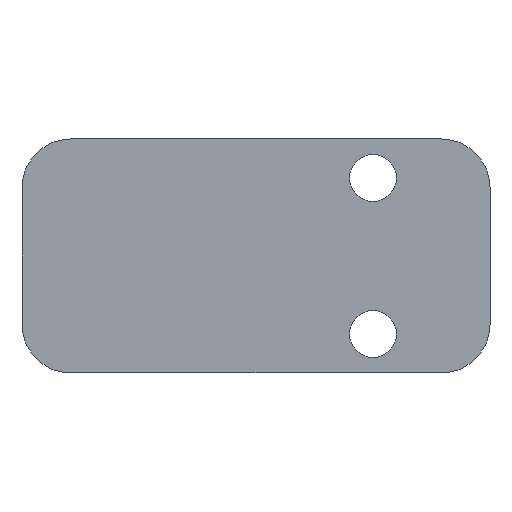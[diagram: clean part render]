
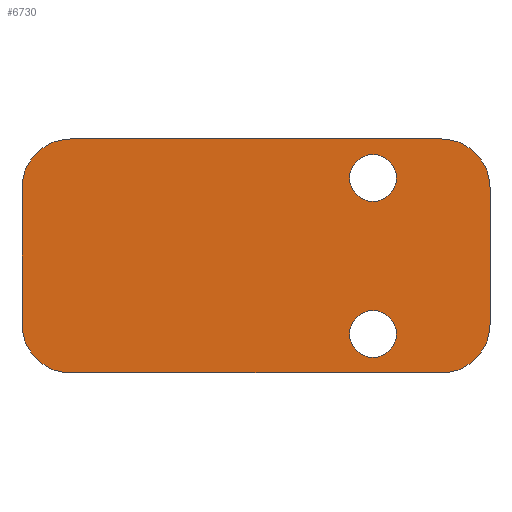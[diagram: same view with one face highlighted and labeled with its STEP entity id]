
A CAD part, front view. The second image highlights one B-rep face of the part: STEP entity #6730.
In plain terms, the highlighted planar face has unit normal (0, -1, 0).
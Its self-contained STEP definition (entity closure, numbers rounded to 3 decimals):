
#397=CIRCLE('',#7361,5.);
#398=CIRCLE('',#7364,5.);
#399=CIRCLE('',#7366,5.);
#400=CIRCLE('',#7367,5.);
#401=CIRCLE('',#7368,2.4);
#402=CIRCLE('',#7369,2.4);
#418=FACE_BOUND('',#1473,.T.);
#419=FACE_BOUND('',#1474,.T.);
#705=PLANE('',#7365);
#1082=FACE_OUTER_BOUND('',#1472,.T.);
#1472=EDGE_LOOP('',(#6026,#6027,#6028,#6029,#6030,#6031,#6032,#6033));
#1473=EDGE_LOOP('',(#6034));
#1474=EDGE_LOOP('',(#6035));
#2167=LINE('',#11468,#2806);
#2169=LINE('',#11475,#2808);
#2170=LINE('',#11479,#2809);
#2171=LINE('',#11482,#2810);
#2806=VECTOR('',#9203,10.);
#2808=VECTOR('',#9211,10.);
#2809=VECTOR('',#9214,10.);
#2810=VECTOR('',#9217,10.);
#3483=VERTEX_POINT('',#11460);
#3484=VERTEX_POINT('',#11462);
#3485=VERTEX_POINT('',#11466);
#3486=VERTEX_POINT('',#11470);
#3487=VERTEX_POINT('',#11474);
#3488=VERTEX_POINT('',#11476);
#3489=VERTEX_POINT('',#11478);
#3490=VERTEX_POINT('',#11480);
#3491=VERTEX_POINT('',#11483);
#3492=VERTEX_POINT('',#11485);
#4415=EDGE_CURVE('',#3483,#3484,#397,.T.);
#4418=EDGE_CURVE('',#3485,#3483,#2167,.T.);
#4420=EDGE_CURVE('',#3486,#3485,#398,.T.);
#4421=EDGE_CURVE('',#3487,#3486,#2169,.T.);
#4422=EDGE_CURVE('',#3488,#3487,#399,.T.);
#4423=EDGE_CURVE('',#3489,#3488,#2170,.T.);
#4424=EDGE_CURVE('',#3490,#3489,#400,.T.);
#4425=EDGE_CURVE('',#3484,#3490,#2171,.T.);
#4426=EDGE_CURVE('',#3491,#3491,#401,.T.);
#4427=EDGE_CURVE('',#3492,#3492,#402,.T.);
#6026=ORIENTED_EDGE('',*,*,#4415,.F.);
#6027=ORIENTED_EDGE('',*,*,#4418,.F.);
#6028=ORIENTED_EDGE('',*,*,#4420,.F.);
#6029=ORIENTED_EDGE('',*,*,#4421,.F.);
#6030=ORIENTED_EDGE('',*,*,#4422,.F.);
#6031=ORIENTED_EDGE('',*,*,#4423,.F.);
#6032=ORIENTED_EDGE('',*,*,#4424,.F.);
#6033=ORIENTED_EDGE('',*,*,#4425,.F.);
#6034=ORIENTED_EDGE('',*,*,#4426,.T.);
#6035=ORIENTED_EDGE('',*,*,#4427,.T.);
#6730=ADVANCED_FACE('',(#1082,#418,#419),#705,.F.);
#7361=AXIS2_PLACEMENT_3D('',#11463,#9197,#9198);
#7364=AXIS2_PLACEMENT_3D('',#11472,#9207,#9208);
#7365=AXIS2_PLACEMENT_3D('',#11473,#9209,#9210);
#7366=AXIS2_PLACEMENT_3D('',#11477,#9212,#9213);
#7367=AXIS2_PLACEMENT_3D('',#11481,#9215,#9216);
#7368=AXIS2_PLACEMENT_3D('',#11484,#9218,#9219);
#7369=AXIS2_PLACEMENT_3D('',#11486,#9220,#9221);
#9197=DIRECTION('center_axis',(0.,1.,0.));
#9198=DIRECTION('ref_axis',(0.707,0.,-0.707));
#9203=DIRECTION('',(0.,0.,-1.));
#9207=DIRECTION('center_axis',(0.,1.,0.));
#9208=DIRECTION('ref_axis',(0.707,0.,0.707));
#9209=DIRECTION('center_axis',(0.,1.,0.));
#9210=DIRECTION('ref_axis',(0.,0.,1.));
#9211=DIRECTION('',(1.,0.,0.));
#9212=DIRECTION('center_axis',(0.,1.,0.));
#9213=DIRECTION('ref_axis',(-0.707,0.,0.707));
#9214=DIRECTION('',(0.,0.,1.));
#9215=DIRECTION('center_axis',(0.,1.,0.));
#9216=DIRECTION('ref_axis',(-0.707,0.,-0.707));
#9217=DIRECTION('',(-1.,0.,0.));
#9218=DIRECTION('center_axis',(0.,1.,0.));
#9219=DIRECTION('ref_axis',(1.,0.,0.));
#9220=DIRECTION('center_axis',(0.,1.,0.));
#9221=DIRECTION('ref_axis',(1.,0.,0.));
#11460=CARTESIAN_POINT('',(24.,0.,-7.));
#11462=CARTESIAN_POINT('',(19.,0.,-12.));
#11463=CARTESIAN_POINT('Origin',(19.,0.,-7.));
#11466=CARTESIAN_POINT('',(24.,0.,7.));
#11468=CARTESIAN_POINT('',(24.,0.,12.));
#11470=CARTESIAN_POINT('',(19.,0.,12.));
#11472=CARTESIAN_POINT('Origin',(19.,0.,7.));
#11473=CARTESIAN_POINT('Origin',(0.,0.,0.));
#11474=CARTESIAN_POINT('',(-19.,0.,12.));
#11475=CARTESIAN_POINT('',(-24.,0.,12.));
#11476=CARTESIAN_POINT('',(-24.,0.,7.));
#11477=CARTESIAN_POINT('Origin',(-19.,0.,7.));
#11478=CARTESIAN_POINT('',(-24.,0.,-7.));
#11479=CARTESIAN_POINT('',(-24.,0.,-12.));
#11480=CARTESIAN_POINT('',(-19.,0.,-12.));
#11481=CARTESIAN_POINT('Origin',(-19.,0.,-7.));
#11482=CARTESIAN_POINT('',(24.,0.,-12.));
#11483=CARTESIAN_POINT('',(9.6,0.,8.));
#11484=CARTESIAN_POINT('Origin',(12.,0.,8.));
#11485=CARTESIAN_POINT('',(9.6,0.,-8.));
#11486=CARTESIAN_POINT('Origin',(12.,0.,-8.));
